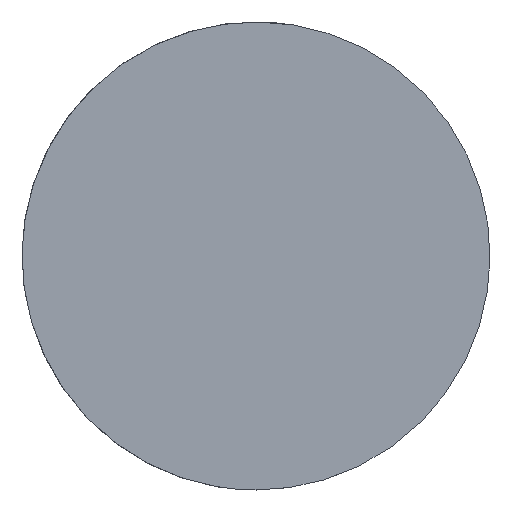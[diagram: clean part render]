
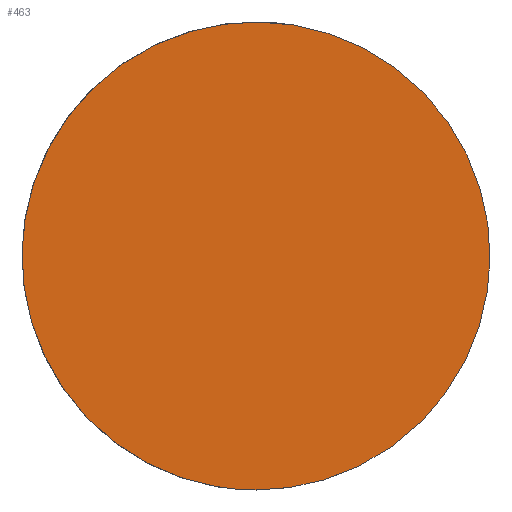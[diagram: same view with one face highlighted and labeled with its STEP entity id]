
A CAD part, top view. The second image highlights one B-rep face of the part: STEP entity #463.
In plain terms, the highlighted planar face has unit normal (0, 0, 1).
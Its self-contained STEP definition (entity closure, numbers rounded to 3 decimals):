
#15=PLANE('',#1266);
#463=ADVANCED_FACE('',(#502),#15,.T.);
#502=FACE_OUTER_BOUND('',#541,.T.);
#541=EDGE_LOOP('',(#651));
#651=ORIENTED_EDGE('',*,*,#817,.T.);
#817=EDGE_CURVE('',#1145,#1145,#963,.T.);
#963=(
BOUNDED_CURVE()
B_SPLINE_CURVE(2,(#1790,#1791,#1792,#1793,#1794,#1795,#1796,#1797,#1798),
 .UNSPECIFIED.,.T.,.F.)
B_SPLINE_CURVE_WITH_KNOTS((3,2,2,2,3),(0.,282.743,565.487,
848.23,1130.973),.UNSPECIFIED.)
CURVE()
GEOMETRIC_REPRESENTATION_ITEM()
RATIONAL_B_SPLINE_CURVE((1.,0.707,1.,0.707,1.,0.707,
1.,0.707,1.))
REPRESENTATION_ITEM('')
);
#1145=VERTEX_POINT('',#1789);
#1266=AXIS2_PLACEMENT_3D('',#1788,#1283,$);
#1283=DIRECTION('',(0.,0.,1.));
#1788=CARTESIAN_POINT('',(-248.587,250.345,360.));
#1789=CARTESIAN_POINT('',(1.413,-199.655,360.));
#1790=CARTESIAN_POINT('',(1.413,-199.655,360.));
#1791=CARTESIAN_POINT('',(201.413,-199.655,360.));
#1792=CARTESIAN_POINT('',(201.413,0.345,360.));
#1793=CARTESIAN_POINT('',(201.413,200.345,360.));
#1794=CARTESIAN_POINT('',(1.413,200.345,360.));
#1795=CARTESIAN_POINT('',(-198.587,200.345,360.));
#1796=CARTESIAN_POINT('',(-198.587,0.345,360.));
#1797=CARTESIAN_POINT('',(-198.587,-199.655,360.));
#1798=CARTESIAN_POINT('',(1.413,-199.655,360.));
